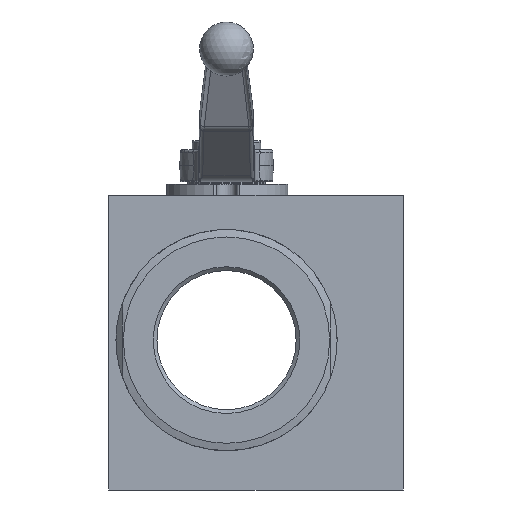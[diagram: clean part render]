
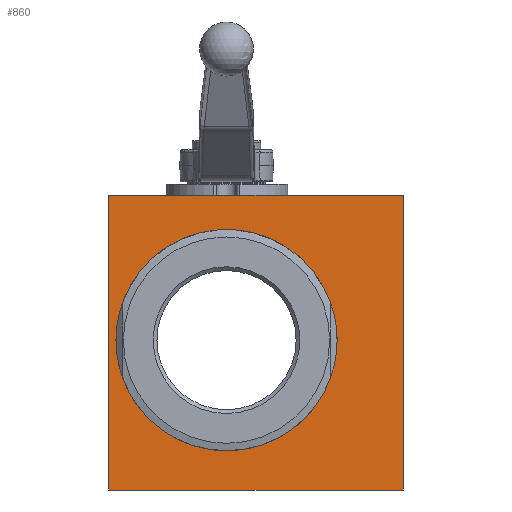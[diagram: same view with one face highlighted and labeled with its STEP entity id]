
A CAD part, front view. The second image highlights one B-rep face of the part: STEP entity #860.
In plain terms, the highlighted planar face has unit normal (0, -1, 0).
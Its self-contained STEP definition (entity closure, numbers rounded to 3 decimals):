
#860 = ADVANCED_FACE( '', ( #1723, #1724 ), #1725, .T. );
#1723 = FACE_OUTER_BOUND( '', #3227, .T. );
#1724 = FACE_BOUND( '', #3228, .T. );
#1725 = PLANE( '', #3229 );
#3227 = EDGE_LOOP( '', ( #5267, #5268, #5269, #5270 ) );
#3228 = EDGE_LOOP( '', ( #5271 ) );
#3229 = AXIS2_PLACEMENT_3D( '', #5272, #5273, #5274 );
#5267 = ORIENTED_EDGE( '', *, *, #6627, .T. );
#5268 = ORIENTED_EDGE( '', *, *, #6245, .T. );
#5269 = ORIENTED_EDGE( '', *, *, #6621, .T. );
#5270 = ORIENTED_EDGE( '', *, *, #5940, .T. );
#5271 = ORIENTED_EDGE( '', *, *, #5860, .T. );
#5272 = CARTESIAN_POINT( '', ( -48., -51., -61. ) );
#5273 = DIRECTION( '', ( 0., -1., 0. ) );
#5274 = DIRECTION( '', ( 0., 0., -1. ) );
#5860 = EDGE_CURVE( '', #6751, #6751, #6752, .T. );
#5940 = EDGE_CURVE( '', #6902, #6900, #6903, .T. );
#6245 = EDGE_CURVE( '', #7401, #7399, #7402, .T. );
#6621 = EDGE_CURVE( '', #7399, #6902, #7907, .T. );
#6627 = EDGE_CURVE( '', #6900, #7401, #7914, .T. );
#6751 = VERTEX_POINT( '', #8061 );
#6752 = CIRCLE( '', #8062, 44. );
#6900 = VERTEX_POINT( '', #8343 );
#6902 = VERTEX_POINT( '', #8346 );
#6903 = LINE( '', #8347, #8348 );
#7399 = VERTEX_POINT( '', #9539 );
#7401 = VERTEX_POINT( '', #9542 );
#7402 = LINE( '', #9543, #9544 );
#7907 = LINE( '', #10863, #10864 );
#7914 = LINE( '', #10871, #10872 );
#8061 = CARTESIAN_POINT( '', ( 44., -51., 0. ) );
#8062 = AXIS2_PLACEMENT_3D( '', #11083, #11084, #11085 );
#8343 = CARTESIAN_POINT( '', ( -48., -51., 59. ) );
#8346 = CARTESIAN_POINT( '', ( 72., -51., 59. ) );
#8347 = CARTESIAN_POINT( '', ( 72., -51., 59. ) );
#8348 = VECTOR( '', #11196, 1000. );
#9539 = CARTESIAN_POINT( '', ( 72., -51., -61. ) );
#9542 = CARTESIAN_POINT( '', ( -48., -51., -61. ) );
#9543 = CARTESIAN_POINT( '', ( -48., -51., -61. ) );
#9544 = VECTOR( '', #11594, 1000. );
#10863 = CARTESIAN_POINT( '', ( 72., -51., -61. ) );
#10864 = VECTOR( '', #12067, 1000. );
#10871 = CARTESIAN_POINT( '', ( -48., -51., 59. ) );
#10872 = VECTOR( '', #12071, 1000. );
#11083 = CARTESIAN_POINT( '', ( 0., -51., 0. ) );
#11084 = DIRECTION( '', ( 0., 1., 0. ) );
#11085 = DIRECTION( '', ( 1., 0., 0. ) );
#11196 = DIRECTION( '', ( -1., 0., 0. ) );
#11594 = DIRECTION( '', ( 1., 0., 0. ) );
#12067 = DIRECTION( '', ( 0., 0., 1. ) );
#12071 = DIRECTION( '', ( 0., 0., -1. ) );
